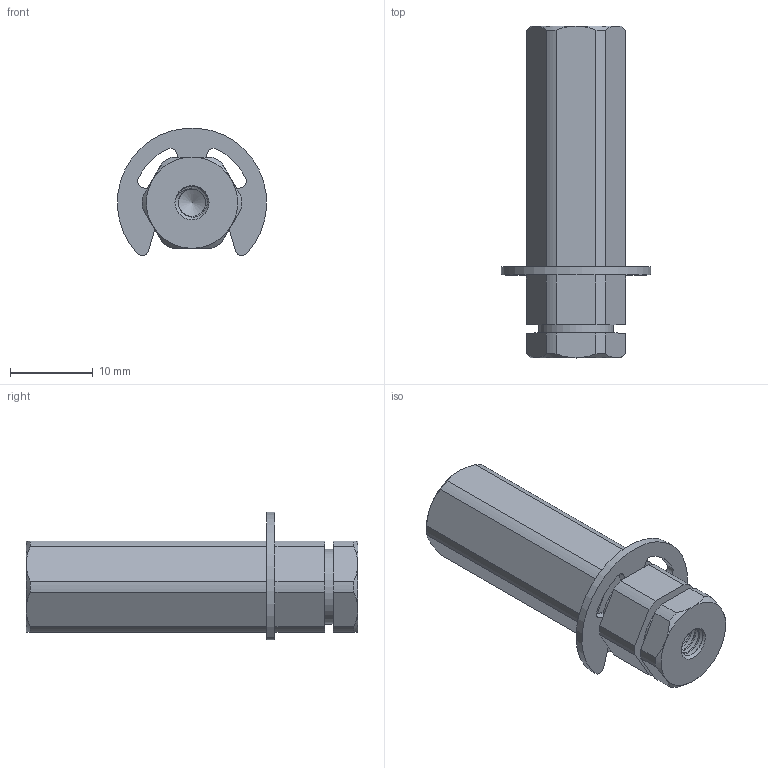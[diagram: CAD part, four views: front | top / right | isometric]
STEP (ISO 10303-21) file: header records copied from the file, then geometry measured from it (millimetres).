
FILE_DESCRIPTION(/* description */ (''),/* implementation_level */ '2;1');
FILE_NAME(/* name */ '2109-4012-0400.step',/* time_stamp */ '2026-06-23T16:39:20-05:00',/* author */ (''),/* organization */ (''),/* preprocessor_version */ 'ST-DEVELOPER v20.1',/* originating_system */ 'Autodesk Translation Framework v15.8.0.0',/* authorisation */ '');
FILE_SCHEMA (('AUTOMOTIVE_DESIGN { 1 0 10303 214 3 1 1 }'));
Length unit declared in the file: millimetre
Products named in the file (2): 2109-4012-0400 (Slot 1); 2824-0002-0091
Assembly tree (1 placements, depth 2):
  2109-4012-0400 (Slot 1)
    2824-0002-0091
Bounding box: 17.97 x 40 x 15.35 mm (x, y, z)
Volume: 3878.2 mm3; surface area: 2589.6 mm2
Topology: 2 solids, 2 shells, 164 faces, 456 edges, 300 vertices
Faces by surface type: cylinder 110, plane 34, cone 16, bspline 4
Full cylindrical faces by diameter (mm): 3.3 x34, 4 x32, 9 x2
Entity records: 14176 total; most frequent: CARTESIAN_POINT 10207, ORIENTED_EDGE 908, DIRECTION 706, EDGE_CURVE 454, VERTEX_POINT 300, AXIS2_PLACEMENT_3D 267, LINE 172, VECTOR 172
